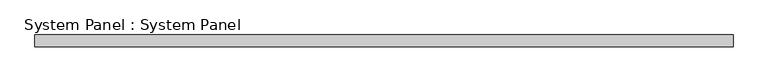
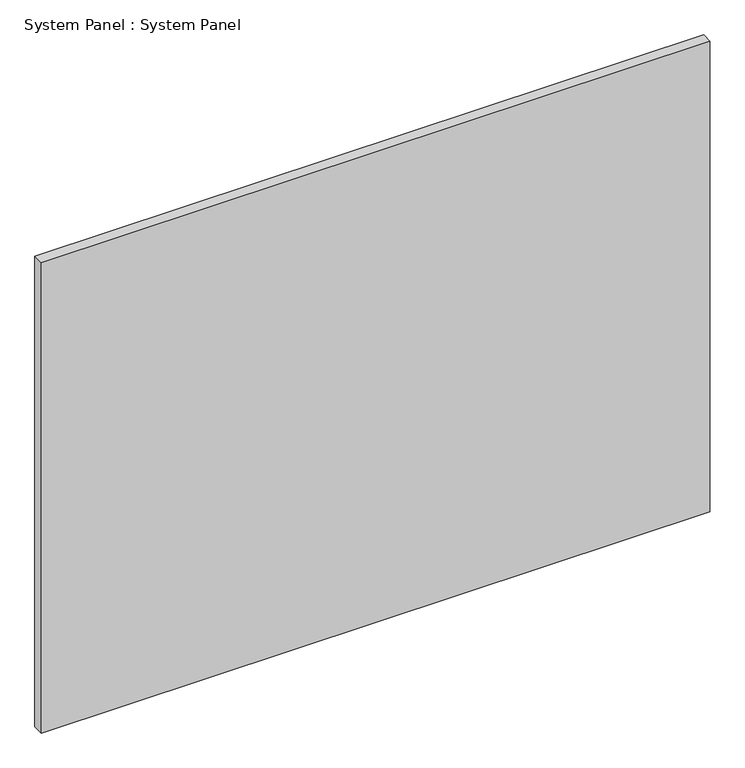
"""IFC4 building model written with IfcOpenShell, lengths in millimetres: plate geometry, System Panel : System Panel."""

from ifc_helpers import new_model, si_unit, origin, origin_with_axes, place, context, project, spatial, polyline, outline, extrude, source, transform, mapped, element, save


def system_panel_system_panel_1039fe1f(model_context):
    return source(origin(), model_context, "Body", "SweptSolid", [
        extrude(outline(polyline([(755.65, 19.05), (-755.65, 19.05), (-755.65, 44.45), (755.65, 44.45), (755.65, 19.05)])), origin_with_axes(), (0.0, 0.0, 1.0), 1123.95),
    ])


if __name__ == "__main__":
    model = new_model("IFC4")
    model_context = context("Model", 3, world=origin())
    ifc_project = project(units=[si_unit("LENGTHUNIT", "METRE", prefix="MILLI")], contexts=[model_context])
    site = spatial("IfcSite", under=ifc_project)
    building = spatial("IfcBuilding", under=site)
    placement = place(None, origin())
    system_panel_system_panel_shape = system_panel_system_panel_1039fe1f(model_context)
    element("IfcPlate", 1, ObjectType="System Panel : System Panel", at=placement, inside=building, context=model_context, shape_type="MappedRepresentation", body=[
        mapped(system_panel_system_panel_shape, transform((0.0, 0.0, 0.0), x_axis=(1.0, 0.0, 0.0), y_axis=(0.0, 1.0, 0.0), z_axis=(0.0, 0.0, 1.0))),
    ])
    save(model, "model.ifc")
